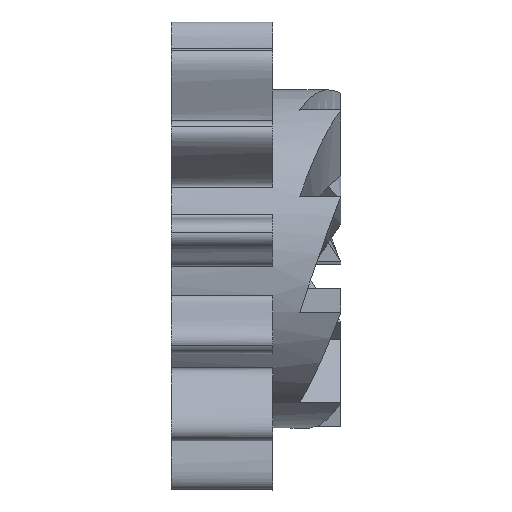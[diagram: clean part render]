
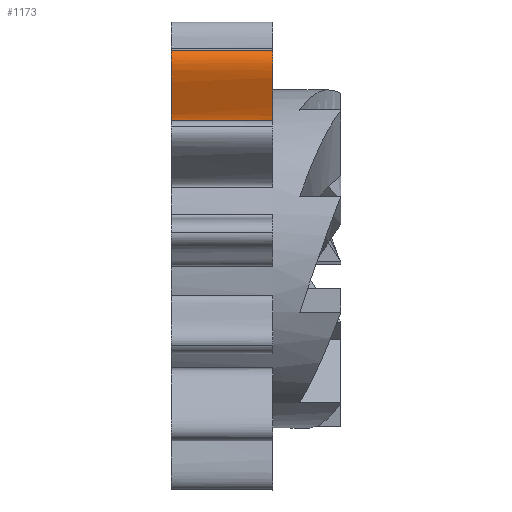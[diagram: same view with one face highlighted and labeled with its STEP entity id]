
A CAD part, left-side view. The second image highlights one B-rep face of the part: STEP entity #1173.
In plain terms, the highlighted free-form (B-spline) face has degree [3, 1] with [5, 2] control points.
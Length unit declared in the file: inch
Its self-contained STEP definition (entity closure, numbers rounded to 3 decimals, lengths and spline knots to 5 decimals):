
#24=B_SPLINE_SURFACE_WITH_KNOTS('',3,1,((#2070,#2071),(#2072,#2073),(#2074,
#2075),(#2076,#2077),(#2078,#2079)),.UNSPECIFIED.,.F.,.F.,.F.,(4,1,4),(2,
2),(0.,0.51837,1.),(0.,0.09),.UNSPECIFIED.);
#90=FACE_OUTER_BOUND('',#151,.T.);
#151=EDGE_LOOP('',(#919,#920,#921,#922));
#263=LINE('',#1739,#331);
#269=LINE('',#2069,#337);
#331=VECTOR('',#1384,228.34646);
#337=VECTOR('',#1428,228.34646);
#398=B_SPLINE_CURVE_WITH_KNOTS('',3,(#1874,#1875,#1876,#1877,#1878),
 .UNSPECIFIED.,.F.,.F.,(4,1,4),(0.,0.48163,1.),.UNSPECIFIED.);
#407=B_SPLINE_CURVE_WITH_KNOTS('',3,(#1928,#1929,#1930,#1931,#1932),
 .UNSPECIFIED.,.F.,.F.,(4,1,4),(0.,0.51837,1.),.UNSPECIFIED.);
#522=VERTEX_POINT('',#1736);
#523=VERTEX_POINT('',#1738);
#542=VERTEX_POINT('',#1868);
#547=VERTEX_POINT('',#1927);
#643=EDGE_CURVE('',#522,#523,#263,.T.);
#673=EDGE_CURVE('',#542,#522,#398,.T.);
#682=EDGE_CURVE('',#523,#547,#407,.T.);
#706=EDGE_CURVE('',#542,#547,#269,.T.);
#919=ORIENTED_EDGE('',*,*,#673,.F.);
#920=ORIENTED_EDGE('',*,*,#706,.T.);
#921=ORIENTED_EDGE('',*,*,#682,.F.);
#922=ORIENTED_EDGE('',*,*,#643,.F.);
#1173=ADVANCED_FACE('',(#90),#24,.T.);
#1384=DIRECTION('',(0.,1.,0.));
#1428=DIRECTION('',(0.,1.,0.));
#1736=CARTESIAN_POINT('',(-0.17289,3.45814,0.13578));
#1738=CARTESIAN_POINT('',(-0.17289,3.6294,0.13578));
#1739=CARTESIAN_POINT('',(-0.17289,3.31041,0.13578));
#1868=CARTESIAN_POINT('',(-0.18933,3.45814,0.26057));
#1874=CARTESIAN_POINT('Ctrl Pts',(-0.18933,3.45814,0.26057));
#1875=CARTESIAN_POINT('Ctrl Pts',(-0.20586,3.45814,0.25167));
#1876=CARTESIAN_POINT('Ctrl Pts',(-0.19768,3.45814,0.20544));
#1877=CARTESIAN_POINT('Ctrl Pts',(-0.16449,3.45814,0.14217));
#1878=CARTESIAN_POINT('Ctrl Pts',(-0.17289,3.45814,0.13578));
#1927=CARTESIAN_POINT('',(-0.18933,3.6294,0.26057));
#1928=CARTESIAN_POINT('Ctrl Pts',(-0.17289,3.6294,0.13578));
#1929=CARTESIAN_POINT('Ctrl Pts',(-0.16449,3.6294,0.14217));
#1930=CARTESIAN_POINT('Ctrl Pts',(-0.19768,3.6294,0.20544));
#1931=CARTESIAN_POINT('Ctrl Pts',(-0.20586,3.6294,0.25167));
#1932=CARTESIAN_POINT('Ctrl Pts',(-0.18933,3.6294,0.26057));
#2069=CARTESIAN_POINT('',(-0.18933,3.31041,0.26057));
#2070=CARTESIAN_POINT('Ctrl Pts',(-0.17289,3.45814,0.13578));
#2071=CARTESIAN_POINT('Ctrl Pts',(-0.17289,3.66365,0.13578));
#2072=CARTESIAN_POINT('Ctrl Pts',(-0.16449,3.45814,0.14217));
#2073=CARTESIAN_POINT('Ctrl Pts',(-0.16449,3.66365,0.14217));
#2074=CARTESIAN_POINT('Ctrl Pts',(-0.19768,3.45814,0.20544));
#2075=CARTESIAN_POINT('Ctrl Pts',(-0.19768,3.66365,0.20544));
#2076=CARTESIAN_POINT('Ctrl Pts',(-0.20586,3.45814,0.25167));
#2077=CARTESIAN_POINT('Ctrl Pts',(-0.20586,3.66365,0.25167));
#2078=CARTESIAN_POINT('Ctrl Pts',(-0.18933,3.45814,0.26057));
#2079=CARTESIAN_POINT('Ctrl Pts',(-0.18933,3.66365,0.26057));
